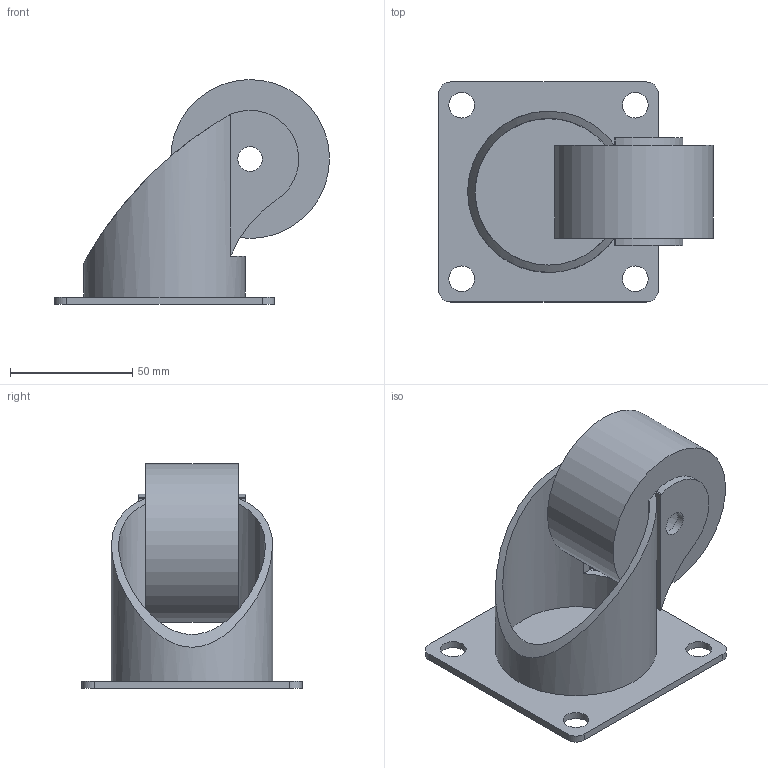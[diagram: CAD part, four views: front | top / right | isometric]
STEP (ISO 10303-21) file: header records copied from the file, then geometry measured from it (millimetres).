
FILE_DESCRIPTION((''),'2;1');
FILE_NAME('E:\catalogue and flyer\Profile catalogue 2015\Accessories- FM & wheel\foot mout & wheel stp file\ACC-JM65-HP.stp','2016-04-08T10:49:43',('h029'),(''),'Autodesk Inventor 11','Autodesk Inventor 11','');
FILE_SCHEMA(('AUTOMOTIVE_DESIGN { 1 0 10303 214 1 1 1 1 }'));
Length unit declared in the file: millimetre
Products named in the file (4): Assembly1; plate; Part3; wheel
Assembly tree (3 placements, depth 2):
  Assembly1
    plate
    Part3
    wheel
Bounding box: 112.49 x 90 x 91.99 mm (x, y, z)
Volume: 159693.6 mm3; surface area: 55612.9 mm2
Topology: 5 solids, 5 shells, 39 faces, 98 edges, 64 vertices
Faces by surface type: plane 16, cylinder 12, bspline 11
Full cylindrical faces by diameter (mm): 10 x1, 25 x1, 60 x1, 65 x1, 66 x1
Entity records: 1466 total; most frequent: CARTESIAN_POINT 505, DIRECTION 184, ORIENTED_EDGE 160, EDGE_CURVE 80, AXIS2_PLACEMENT_3D 73, EDGE_LOOP 64, VERTEX_POINT 56, FACE_OUTER_BOUND 39
